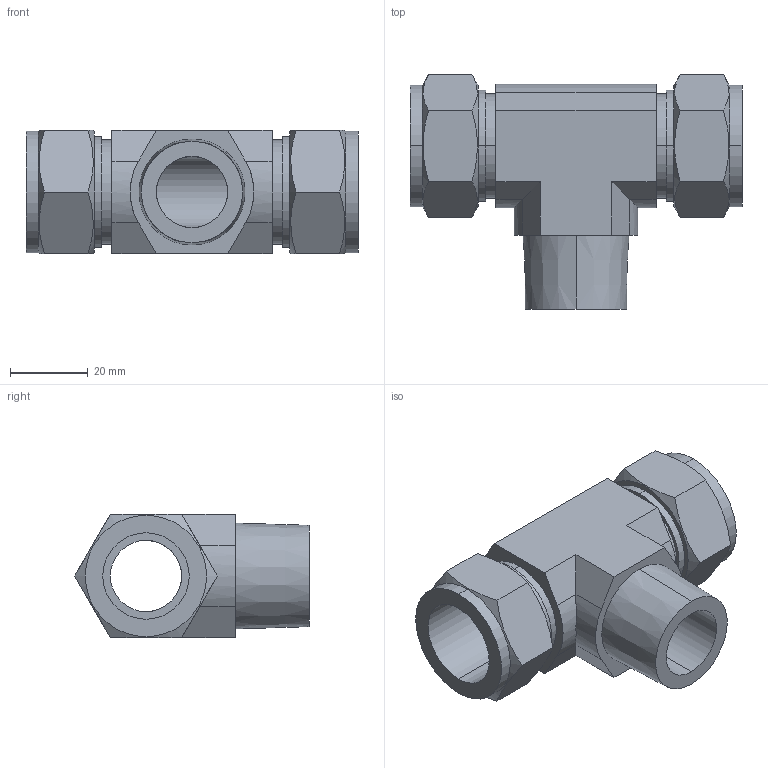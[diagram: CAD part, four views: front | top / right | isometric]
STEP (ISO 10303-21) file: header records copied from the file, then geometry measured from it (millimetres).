
FILE_DESCRIPTION (( 'STEP AP203' ), '1' );
FILE_NAME ('DTN 14-12 SS.STEP', '2009-09-08T10:09:54', ( 'Your User Name' ), ( 'Your Company Name' ), 'SwSTEP 2.0', 'SolidWorks 2008', '' );
FILE_SCHEMA (( 'CONFIG_CONTROL_DESIGN' ));
Length unit declared in the file: millimetre
Products named in the file (1): DTN 14-12 SS
Bounding box: 85.4 x 60.33 x 31.8 mm (x, y, z)
Volume: 50644.9 mm3; surface area: 20842 mm2
Topology: 1 solids, 1 shells, 72 faces, 174 edges, 112 vertices
Faces by surface type: plane 36, cylinder 26, cone 10
Entity records: 2403 total; most frequent: CARTESIAN_POINT 659, ORIENTED_EDGE 348, DIRECTION 336, EDGE_CURVE 174, AXIS2_PLACEMENT_3D 125, VERTEX_POINT 112, VECTOR 86, LINE 86
